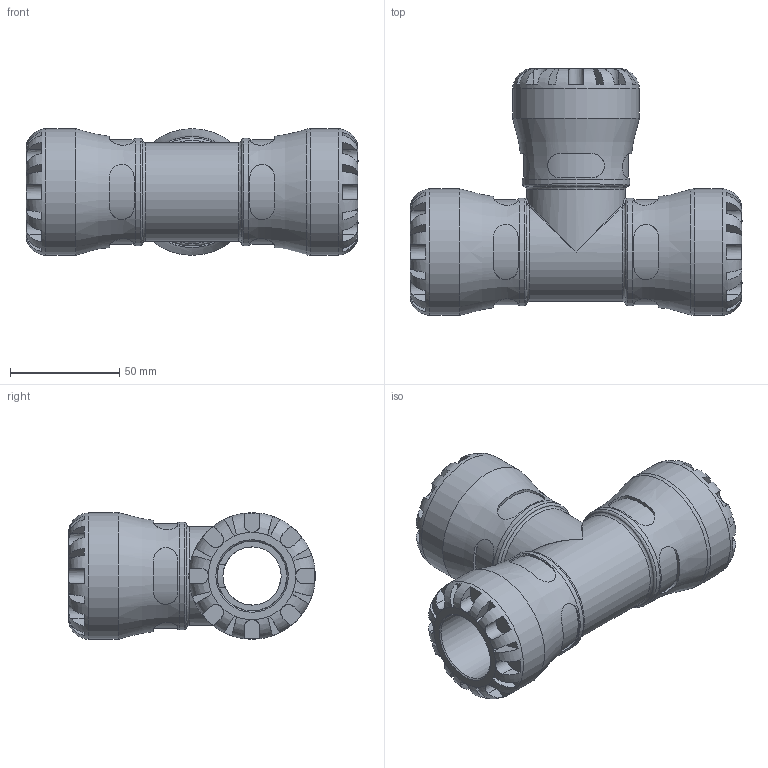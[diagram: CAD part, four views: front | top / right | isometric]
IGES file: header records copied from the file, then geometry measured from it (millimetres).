
Global section: file name: 100400032_190400032.ipt; native system: Autodesk Inventor 2015; preprocessor: unknown; author: KIM; date: 20180211.125743; units: millimetre
Bounding box: 152 x 113 x 58 mm (x, y, z)
Volume: 279392.6 mm3; surface area: 65082.8 mm2
Topology: 1 solids, 1 shells, 298 faces, 783 edges, 493 vertices
Faces by surface type: plane 174, revolution 68, cylinder 46, bspline 10
Full cylindrical faces by diameter (mm): 45.24 x1, 49.3 x3, 58 x3
